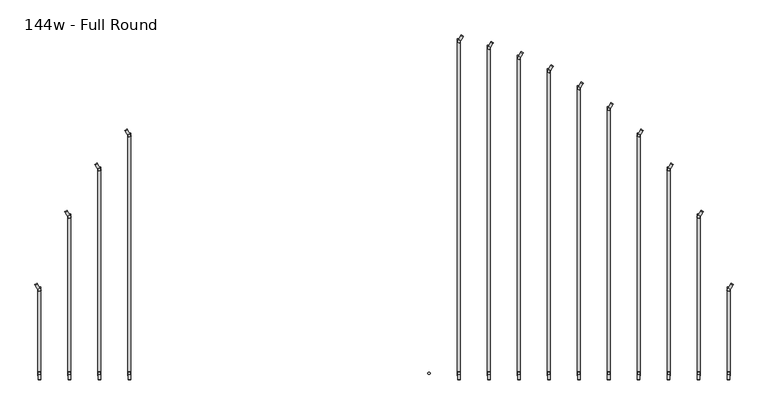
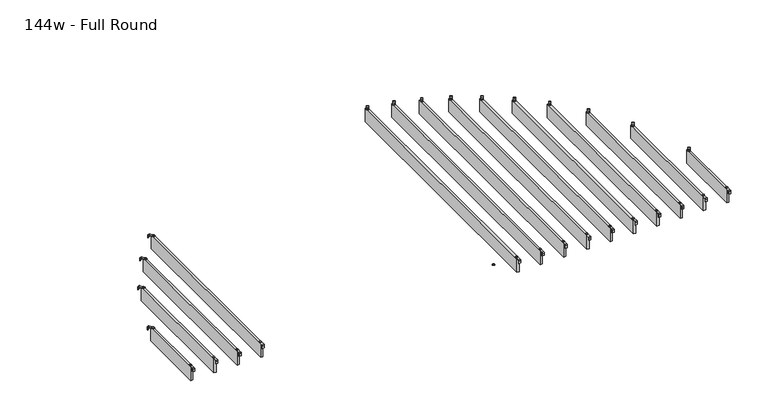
"""IFC4 building model written with IfcOpenShell, lengths in millimetres: furniture geometry, Haworth_Pergola_Ceiling_Slat_Radial : 144w - Full Round."""

from ifc_helpers import new_model, si_unit, point, frame, frame_2d, origin, place, context, project, spatial, polyline, circle_curve, trimmed, segment, composite_curve, outline, extrude, source, transform, mapped, element, save


def furniture_144w_full_round_0b8315b5(model_context):
    return source(origin(), model_context, "Body", "SweptSolid", [
        extrude(outline(composite_curve([segment(trimmed(circle_curve(frame_2d((-1.0160034, 0.0159996)), 1.016), [point((-1.0160034, -1.0000004))], [point((-3.4e-06, 0.0159996))], True, "CARTESIAN"), True, "CONTINUOUS"), segment(polyline([(-3.4e-06, 0.0159996), (-3.4e-06, 36.7785168), (2.5329992, 36.7785168), (2.5329992, 0.022999)]), True, "CONTINUOUS"), segment(trimmed(circle_curve(frame_2d((-1.1500008, 0.022999)), 3.683), [point((2.5329992, 0.022999))], [point((-1.1500008, -3.660001))], False, "CARTESIAN"), True, "CONTINUOUS"), segment(polyline([(-1.1500008, -3.660001), (-19.0498319, -3.660001), (-19.0498319, -1.0000004), (-1.0160034, -1.0000004)]), True, "CONTINUOUS")], self_intersect=False)), frame((-1735.3791648, -1770.5936262, 2438.4), z_axis=(0.8660254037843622, 0.5000000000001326, 0.0), x_axis=(0.0, 0.0, 1.0)), (0.0, 0.0, 1.0), 13.0000002),
        extrude(outline(composite_curve([segment(trimmed(circle_curve(frame_2d((-1714.5, -2218.9346)), 5.9838099), [point((-1714.5, -2212.9507901))], [point((-1714.5, -2224.9184099))], False, "CARTESIAN"), True, "CONTINUOUS"), segment(trimmed(circle_curve(frame_2d((-1714.5, -2218.9346)), 5.9838099), [point((-1714.5, -2224.9184099))], [point((-1714.5, -2212.9507901))], False, "CARTESIAN"), True, "CONTINUOUS")], self_intersect=False)), frame((0.0, 0.0, 2440.9329992), z_axis=(0.0, 0.0, 1.0), x_axis=(1.0, 0.0, 0.0)), (0.0, 0.0, 1.0), 3.4400008),
        extrude(outline(composite_curve([segment(trimmed(circle_curve(frame_2d((-1714.5, -1793.7574)), 5.9838099), [point((-1714.5, -1799.7412099))], [point((-1714.5, -1787.7735901))], False, "CARTESIAN"), True, "CONTINUOUS"), segment(trimmed(circle_curve(frame_2d((-1714.5, -1793.7574)), 5.9838099), [point((-1714.5, -1787.7735901))], [point((-1714.5, -1799.7412099))], False, "CARTESIAN"), True, "CONTINUOUS")], self_intersect=False)), frame((0.0, 0.0, 2440.9329992), z_axis=(0.0, 0.0, 1.0), x_axis=(1.0, 0.0, 0.0)), (0.0, 0.0, 1.0), 3.4400008),
        extrude(outline(composite_curve([segment(polyline([(-2253.0946, 2419.2231711), (-2253.0946, 2437.2499992)]), True, "CONTINUOUS"), segment(trimmed(circle_curve(frame_2d((-2249.4116, 2437.2499992)), 3.683), [point((-2253.0946, 2437.2499992))], [point((-2249.4116, 2440.9329992))], False, "CARTESIAN"), True, "CONTINUOUS"), segment(polyline([(-2249.4116, 2440.9329992), (-2212.4346, 2440.9329992), (-2212.4346, 2438.2729997), (-2249.4251568, 2438.2729997)]), True, "CONTINUOUS"), segment(trimmed(circle_curve(frame_2d((-2249.4251568, 2437.2635571)), 1.0094425), [point((-2249.4251568, 2438.2729997))], [point((-2250.4345993, 2437.2635571))], True, "CARTESIAN"), True, "CONTINUOUS"), segment(polyline([(-2250.4345993, 2437.2635571), (-2250.4345993, 2419.2231711), (-2253.0946, 2419.2231711)]), True, "CONTINUOUS")], self_intersect=False)), frame((-1720.9930003, 0.0, 0.0), z_axis=(1.0, 0.0, 0.0), x_axis=(0.0, 1.0, 0.0)), (0.0, 0.0, 1.0), 13.0),
        extrude(outline(polyline([(-1721.993, -1780.0574), (-1707.007, -1780.0574), (-1707.007, -2232.6346), (-1721.993, -2232.6346), (-1721.993, -1780.0574)])), frame((0.0, 0.0, 2346.198), z_axis=(0.0, 0.0, 1.0), x_axis=(1.0, 0.0, 0.0)), (0.0, 0.0, 1.0), 92.202),
        extrude(outline(composite_curve([segment(trimmed(circle_curve(frame_2d((-1.0160034, 0.0159996)), 1.016), [point((-1.0160034, -1.0000004))], [point((-3.4e-06, 0.0159996))], True, "CARTESIAN"), True, "CONTINUOUS"), segment(polyline([(-3.4e-06, 0.0159996), (-3.4e-06, 36.7785168), (2.5329992, 36.7785168), (2.5329992, 0.022999)]), True, "CONTINUOUS"), segment(trimmed(circle_curve(frame_2d((-1.1500008, 0.022999)), 3.683), [point((2.5329992, 0.022999))], [point((-1.1500008, -3.660001))], False, "CARTESIAN"), True, "CONTINUOUS"), segment(polyline([(-1.1500008, -3.660001), (-19.0498319, -3.660001), (-19.0498319, -1.0000004), (-1.0160034, -1.0000004)]), True, "CONTINUOUS")], self_intersect=False)), frame((-1582.9791648, -1399.1186262, 2438.4), z_axis=(0.8660254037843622, 0.5000000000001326, 0.0), x_axis=(0.0, 0.0, 1.0)), (0.0, 0.0, 1.0), 13.0000002),
        extrude(outline(composite_curve([segment(trimmed(circle_curve(frame_2d((-1562.1, -2218.9346)), 5.9838099), [point((-1562.1, -2212.9507901))], [point((-1562.1, -2224.9184099))], False, "CARTESIAN"), True, "CONTINUOUS"), segment(trimmed(circle_curve(frame_2d((-1562.1, -2218.9346)), 5.9838099), [point((-1562.1, -2224.9184099))], [point((-1562.1, -2212.9507901))], False, "CARTESIAN"), True, "CONTINUOUS")], self_intersect=False)), frame((0.0, 0.0, 2440.9329992), z_axis=(0.0, 0.0, 1.0), x_axis=(1.0, 0.0, 0.0)), (0.0, 0.0, 1.0), 3.4400008),
        extrude(outline(composite_curve([segment(trimmed(circle_curve(frame_2d((-1562.1, -1422.2824)), 5.9838099), [point((-1562.1, -1428.2662099))], [point((-1562.1, -1416.2985901))], False, "CARTESIAN"), True, "CONTINUOUS"), segment(trimmed(circle_curve(frame_2d((-1562.1, -1422.2824)), 5.9838099), [point((-1562.1, -1416.2985901))], [point((-1562.1, -1428.2662099))], False, "CARTESIAN"), True, "CONTINUOUS")], self_intersect=False)), frame((0.0, 0.0, 2440.9329992), z_axis=(0.0, 0.0, 1.0), x_axis=(1.0, 0.0, 0.0)), (0.0, 0.0, 1.0), 3.4400008),
        extrude(outline(composite_curve([segment(polyline([(-2253.0946, 2419.2231711), (-2253.0946, 2437.2499992)]), True, "CONTINUOUS"), segment(trimmed(circle_curve(frame_2d((-2249.4116, 2437.2499992)), 3.683), [point((-2253.0946, 2437.2499992))], [point((-2249.4116, 2440.9329992))], False, "CARTESIAN"), True, "CONTINUOUS"), segment(polyline([(-2249.4116, 2440.9329992), (-2212.4346, 2440.9329992), (-2212.4346, 2438.2729997), (-2249.4251568, 2438.2729997)]), True, "CONTINUOUS"), segment(trimmed(circle_curve(frame_2d((-2249.4251568, 2437.2635571)), 1.0094425), [point((-2249.4251568, 2438.2729997))], [point((-2250.4345993, 2437.2635571))], True, "CARTESIAN"), True, "CONTINUOUS"), segment(polyline([(-2250.4345993, 2437.2635571), (-2250.4345993, 2419.2231711), (-2253.0946, 2419.2231711)]), True, "CONTINUOUS")], self_intersect=False)), frame((-1568.5930003, 0.0, 0.0), z_axis=(1.0, 0.0, 0.0), x_axis=(0.0, 1.0, 0.0)), (0.0, 0.0, 1.0), 13.0),
        extrude(outline(polyline([(-1569.593, -1408.5824), (-1554.607, -1408.5824), (-1554.607, -2232.6346), (-1569.593, -2232.6346), (-1569.593, -1408.5824)])), frame((0.0, 0.0, 2346.198), z_axis=(0.0, 0.0, 1.0), x_axis=(1.0, 0.0, 0.0)), (0.0, 0.0, 1.0), 92.202),
        extrude(outline(composite_curve([segment(trimmed(circle_curve(frame_2d((-1.0160034, 0.0159996)), 1.016), [point((-1.0160034, -1.0000004))], [point((-3.4e-06, 0.0159996))], True, "CARTESIAN"), True, "CONTINUOUS"), segment(polyline([(-3.4e-06, 0.0159996), (-3.4e-06, 36.7785168), (2.5329992, 36.7785168), (2.5329992, 0.022999)]), True, "CONTINUOUS"), segment(trimmed(circle_curve(frame_2d((-1.1500008, 0.022999)), 3.683), [point((2.5329992, 0.022999))], [point((-1.1500008, -3.660001))], False, "CARTESIAN"), True, "CONTINUOUS"), segment(polyline([(-1.1500008, -3.660001), (-19.0498319, -3.660001), (-19.0498319, -1.0000004), (-1.0160034, -1.0000004)]), True, "CONTINUOUS")], self_intersect=False)), frame((-1430.5791648, -1158.6314262, 2438.4), z_axis=(0.8660254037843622, 0.5000000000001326, 0.0), x_axis=(0.0, 0.0, 1.0)), (0.0, 0.0, 1.0), 13.0000002),
        extrude(outline(composite_curve([segment(trimmed(circle_curve(frame_2d((-1409.7, -2218.9346)), 5.9838099), [point((-1409.7, -2212.9507901))], [point((-1409.7, -2224.9184099))], False, "CARTESIAN"), True, "CONTINUOUS"), segment(trimmed(circle_curve(frame_2d((-1409.7, -2218.9346)), 5.9838099), [point((-1409.7, -2224.9184099))], [point((-1409.7, -2212.9507901))], False, "CARTESIAN"), True, "CONTINUOUS")], self_intersect=False)), frame((0.0, 0.0, 2440.9329992), z_axis=(0.0, 0.0, 1.0), x_axis=(1.0, 0.0, 0.0)), (0.0, 0.0, 1.0), 3.4400008),
        extrude(outline(composite_curve([segment(trimmed(circle_curve(frame_2d((-1409.7, -1181.7952)), 5.9838099), [point((-1409.7, -1187.7790099))], [point((-1409.7, -1175.8113901))], False, "CARTESIAN"), True, "CONTINUOUS"), segment(trimmed(circle_curve(frame_2d((-1409.7, -1181.7952)), 5.9838099), [point((-1409.7, -1175.8113901))], [point((-1409.7, -1187.7790099))], False, "CARTESIAN"), True, "CONTINUOUS")], self_intersect=False)), frame((0.0, 0.0, 2440.9329992), z_axis=(0.0, 0.0, 1.0), x_axis=(1.0, 0.0, 0.0)), (0.0, 0.0, 1.0), 3.4400008),
        extrude(outline(composite_curve([segment(polyline([(-2253.0946, 2419.2231711), (-2253.0946, 2437.2499992)]), True, "CONTINUOUS"), segment(trimmed(circle_curve(frame_2d((-2249.4116, 2437.2499992)), 3.683), [point((-2253.0946, 2437.2499992))], [point((-2249.4116, 2440.9329992))], False, "CARTESIAN"), True, "CONTINUOUS"), segment(polyline([(-2249.4116, 2440.9329992), (-2212.4346, 2440.9329992), (-2212.4346, 2438.2729997), (-2249.4251568, 2438.2729997)]), True, "CONTINUOUS"), segment(trimmed(circle_curve(frame_2d((-2249.4251568, 2437.2635571)), 1.0094425), [point((-2249.4251568, 2438.2729997))], [point((-2250.4345993, 2437.2635571))], True, "CARTESIAN"), True, "CONTINUOUS"), segment(polyline([(-2250.4345993, 2437.2635571), (-2250.4345993, 2419.2231711), (-2253.0946, 2419.2231711)]), True, "CONTINUOUS")], self_intersect=False)), frame((-1416.1930003, 0.0, 0.0), z_axis=(1.0, 0.0, 0.0), x_axis=(0.0, 1.0, 0.0)), (0.0, 0.0, 1.0), 13.0),
        extrude(outline(polyline([(-1417.193, -1168.0952), (-1402.207, -1168.0952), (-1402.207, -2232.6346), (-1417.193, -2232.6346), (-1417.193, -1168.0952)])), frame((0.0, 0.0, 2346.198), z_axis=(0.0, 0.0, 1.0), x_axis=(1.0, 0.0, 0.0)), (0.0, 0.0, 1.0), 92.202),
        extrude(outline(composite_curve([segment(trimmed(circle_curve(frame_2d((-1.0160034, 0.0159996)), 1.016), [point((-1.0160034, -1.0000004))], [point((-3.4e-06, 0.0159996))], True, "CARTESIAN"), True, "CONTINUOUS"), segment(polyline([(-3.4e-06, 0.0159996), (-3.4e-06, 36.7785168), (2.5329992, 36.7785168), (2.5329992, 0.022999)]), True, "CONTINUOUS"), segment(trimmed(circle_curve(frame_2d((-1.1500008, 0.022999)), 3.683), [point((2.5329992, 0.022999))], [point((-1.1500008, -3.660001))], False, "CARTESIAN"), True, "CONTINUOUS"), segment(polyline([(-1.1500008, -3.660001), (-19.0498319, -3.660001), (-19.0498319, -1.0000004), (-1.0160034, -1.0000004)]), True, "CONTINUOUS")], self_intersect=False)), frame((-1278.1791648, -985.3272262, 2438.4), z_axis=(0.8660254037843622, 0.5000000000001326, 0.0), x_axis=(0.0, 0.0, 1.0)), (0.0, 0.0, 1.0), 13.0000002),
        extrude(outline(composite_curve([segment(trimmed(circle_curve(frame_2d((-1257.3, -2218.9346)), 5.9838099), [point((-1257.3, -2212.9507901))], [point((-1257.3, -2224.9184099))], False, "CARTESIAN"), True, "CONTINUOUS"), segment(trimmed(circle_curve(frame_2d((-1257.3, -2218.9346)), 5.9838099), [point((-1257.3, -2224.9184099))], [point((-1257.3, -2212.9507901))], False, "CARTESIAN"), True, "CONTINUOUS")], self_intersect=False)), frame((0.0, 0.0, 2440.9329992), z_axis=(0.0, 0.0, 1.0), x_axis=(1.0, 0.0, 0.0)), (0.0, 0.0, 1.0), 3.4400008),
        extrude(outline(composite_curve([segment(trimmed(circle_curve(frame_2d((-1257.3, -1008.491)), 5.9838099), [point((-1257.3, -1014.4748099))], [point((-1257.3, -1002.5071901))], False, "CARTESIAN"), True, "CONTINUOUS"), segment(trimmed(circle_curve(frame_2d((-1257.3, -1008.491)), 5.9838099), [point((-1257.3, -1002.5071901))], [point((-1257.3, -1014.4748099))], False, "CARTESIAN"), True, "CONTINUOUS")], self_intersect=False)), frame((0.0, 0.0, 2440.9329992), z_axis=(0.0, 0.0, 1.0), x_axis=(1.0, 0.0, 0.0)), (0.0, 0.0, 1.0), 3.4400008),
        extrude(outline(composite_curve([segment(polyline([(-2253.0946, 2419.2231711), (-2253.0946, 2437.2499992)]), True, "CONTINUOUS"), segment(trimmed(circle_curve(frame_2d((-2249.4116, 2437.2499992)), 3.683), [point((-2253.0946, 2437.2499992))], [point((-2249.4116, 2440.9329992))], False, "CARTESIAN"), True, "CONTINUOUS"), segment(polyline([(-2249.4116, 2440.9329992), (-2212.4346, 2440.9329992), (-2212.4346, 2438.2729997), (-2249.4251568, 2438.2729997)]), True, "CONTINUOUS"), segment(trimmed(circle_curve(frame_2d((-2249.4251568, 2437.2635571)), 1.0094425), [point((-2249.4251568, 2438.2729997))], [point((-2250.4345993, 2437.2635571))], True, "CARTESIAN"), True, "CONTINUOUS"), segment(polyline([(-2250.4345993, 2437.2635571), (-2250.4345993, 2419.2231711), (-2253.0946, 2419.2231711)]), True, "CONTINUOUS")], self_intersect=False)), frame((-1263.7930003, 0.0, 0.0), z_axis=(1.0, 0.0, 0.0), x_axis=(0.0, 1.0, 0.0)), (0.0, 0.0, 1.0), 13.0),
        extrude(outline(polyline([(-1264.793, -994.791), (-1249.807, -994.791), (-1249.807, -2232.6346), (-1264.793, -2232.6346), (-1264.793, -994.791)])), frame((0.0, 0.0, 2346.198), z_axis=(0.0, 0.0, 1.0), x_axis=(1.0, 0.0, 0.0)), (0.0, 0.0, 1.0), 92.202),
        extrude(outline(composite_curve([segment(polyline([(-1.0160034, 1.0000004), (-19.0498319, 1.0000004), (-19.0498319, 3.660001), (-1.1500008, 3.660001)]), True, "CONTINUOUS"), segment(trimmed(circle_curve(frame_2d((-1.1500008, -0.022999)), 3.683), [point((-1.1500008, 3.660001))], [point((2.5329992, -0.022999))], False, "CARTESIAN"), True, "CONTINUOUS"), segment(polyline([(2.5329992, -0.022999), (2.5329992, -36.7785168), (-3.4e-06, -36.7785168), (-3.4e-06, -0.0159996)]), True, "CONTINUOUS"), segment(trimmed(circle_curve(frame_2d((-1.0160034, -0.0159996)), 1.016), [point((-3.4e-06, -0.0159996))], [point((-1.0160034, 1.0000004))], True, "CARTESIAN"), True, "CONTINUOUS")], self_intersect=False)), frame((1811.5791648, -1770.5936262, 2438.4), z_axis=(-0.8660254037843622, 0.5000000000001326, 0.0), x_axis=(0.0, 0.0, 1.0)), (0.0, 0.0, 1.0), 13.0000002),
        extrude(outline(composite_curve([segment(trimmed(circle_curve(frame_2d((1790.7, -2218.9346)), 5.9838099), [point((1790.7, -2212.9507901))], [point((1790.7, -2224.9184099))], False, "CARTESIAN"), True, "CONTINUOUS"), segment(trimmed(circle_curve(frame_2d((1790.7, -2218.9346)), 5.9838099), [point((1790.7, -2224.9184099))], [point((1790.7, -2212.9507901))], False, "CARTESIAN"), True, "CONTINUOUS")], self_intersect=False)), frame((0.0, 0.0, 2440.9329992), z_axis=(0.0, 0.0, 1.0), x_axis=(1.0, 0.0, 0.0)), (0.0, 0.0, 1.0), 3.4400008),
        extrude(outline(composite_curve([segment(trimmed(circle_curve(frame_2d((1790.7, -1793.7574)), 5.9838099), [point((1790.7, -1799.7412099))], [point((1790.7, -1787.7735901))], False, "CARTESIAN"), True, "CONTINUOUS"), segment(trimmed(circle_curve(frame_2d((1790.7, -1793.7574)), 5.9838099), [point((1790.7, -1787.7735901))], [point((1790.7, -1799.7412099))], False, "CARTESIAN"), True, "CONTINUOUS")], self_intersect=False)), frame((0.0, 0.0, 2440.9329992), z_axis=(0.0, 0.0, 1.0), x_axis=(1.0, 0.0, 0.0)), (0.0, 0.0, 1.0), 3.4400008),
        extrude(outline(composite_curve([segment(polyline([(-2253.0946, 2419.2231711), (-2253.0946, 2437.2499992)]), True, "CONTINUOUS"), segment(trimmed(circle_curve(frame_2d((-2249.4116, 2437.2499992)), 3.683), [point((-2253.0946, 2437.2499992))], [point((-2249.4116, 2440.9329992))], False, "CARTESIAN"), True, "CONTINUOUS"), segment(polyline([(-2249.4116, 2440.9329992), (-2212.4346, 2440.9329992), (-2212.4346, 2438.2729997), (-2249.4251568, 2438.2729997)]), True, "CONTINUOUS"), segment(trimmed(circle_curve(frame_2d((-2249.4251568, 2437.2635571)), 1.0094425), [point((-2249.4251568, 2438.2729997))], [point((-2250.4345993, 2437.2635571))], True, "CARTESIAN"), True, "CONTINUOUS"), segment(polyline([(-2250.4345993, 2437.2635571), (-2250.4345993, 2419.2231711), (-2253.0946, 2419.2231711)]), True, "CONTINUOUS")], self_intersect=False)), frame((1784.1930003, 0.0, 0.0), z_axis=(1.0, 0.0, 0.0), x_axis=(0.0, 1.0, 0.0)), (0.0, 0.0, 1.0), 13.0),
        extrude(outline(polyline([(1798.193, -1780.0574), (1798.193, -2232.6346), (1783.207, -2232.6346), (1783.207, -1780.0574), (1798.193, -1780.0574)])), frame((0.0, 0.0, 2346.198), z_axis=(0.0, 0.0, 1.0), x_axis=(1.0, 0.0, 0.0)), (0.0, 0.0, 1.0), 92.202),
        extrude(outline(composite_curve([segment(polyline([(-1.0160034, 1.0000004), (-19.0498319, 1.0000004), (-19.0498319, 3.660001), (-1.1500008, 3.660001)]), True, "CONTINUOUS"), segment(trimmed(circle_curve(frame_2d((-1.1500008, -0.022999)), 3.683), [point((-1.1500008, 3.660001))], [point((2.5329992, -0.022999))], False, "CARTESIAN"), True, "CONTINUOUS"), segment(polyline([(2.5329992, -0.022999), (2.5329992, -36.7785168), (-3.4e-06, -36.7785168), (-3.4e-06, -0.0159996)]), True, "CONTINUOUS"), segment(trimmed(circle_curve(frame_2d((-1.0160034, -0.0159996)), 1.016), [point((-3.4e-06, -0.0159996))], [point((-1.0160034, 1.0000004))], True, "CARTESIAN"), True, "CONTINUOUS")], self_intersect=False)), frame((1659.1791648, -1399.1186262, 2438.4), z_axis=(-0.8660254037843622, 0.5000000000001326, 0.0), x_axis=(0.0, 0.0, 1.0)), (0.0, 0.0, 1.0), 13.0000002),
        extrude(outline(composite_curve([segment(trimmed(circle_curve(frame_2d((1638.3, -2218.9346)), 5.9838099), [point((1638.3, -2212.9507901))], [point((1638.3, -2224.9184099))], False, "CARTESIAN"), True, "CONTINUOUS"), segment(trimmed(circle_curve(frame_2d((1638.3, -2218.9346)), 5.9838099), [point((1638.3, -2224.9184099))], [point((1638.3, -2212.9507901))], False, "CARTESIAN"), True, "CONTINUOUS")], self_intersect=False)), frame((0.0, 0.0, 2440.9329992), z_axis=(0.0, 0.0, 1.0), x_axis=(1.0, 0.0, 0.0)), (0.0, 0.0, 1.0), 3.4400008),
        extrude(outline(composite_curve([segment(trimmed(circle_curve(frame_2d((1638.3, -1422.2824)), 5.9838099), [point((1638.3, -1428.2662099))], [point((1638.3, -1416.2985901))], False, "CARTESIAN"), True, "CONTINUOUS"), segment(trimmed(circle_curve(frame_2d((1638.3, -1422.2824)), 5.9838099), [point((1638.3, -1416.2985901))], [point((1638.3, -1428.2662099))], False, "CARTESIAN"), True, "CONTINUOUS")], self_intersect=False)), frame((0.0, 0.0, 2440.9329992), z_axis=(0.0, 0.0, 1.0), x_axis=(1.0, 0.0, 0.0)), (0.0, 0.0, 1.0), 3.4400008),
        extrude(outline(composite_curve([segment(polyline([(-2253.0946, 2419.2231711), (-2253.0946, 2437.2499992)]), True, "CONTINUOUS"), segment(trimmed(circle_curve(frame_2d((-2249.4116, 2437.2499992)), 3.683), [point((-2253.0946, 2437.2499992))], [point((-2249.4116, 2440.9329992))], False, "CARTESIAN"), True, "CONTINUOUS"), segment(polyline([(-2249.4116, 2440.9329992), (-2212.4346, 2440.9329992), (-2212.4346, 2438.2729997), (-2249.4251568, 2438.2729997)]), True, "CONTINUOUS"), segment(trimmed(circle_curve(frame_2d((-2249.4251568, 2437.2635571)), 1.0094425), [point((-2249.4251568, 2438.2729997))], [point((-2250.4345993, 2437.2635571))], True, "CARTESIAN"), True, "CONTINUOUS"), segment(polyline([(-2250.4345993, 2437.2635571), (-2250.4345993, 2419.2231711), (-2253.0946, 2419.2231711)]), True, "CONTINUOUS")], self_intersect=False)), frame((1631.7930003, 0.0, 0.0), z_axis=(1.0, 0.0, 0.0), x_axis=(0.0, 1.0, 0.0)), (0.0, 0.0, 1.0), 13.0),
        extrude(outline(polyline([(1645.793, -1408.5824), (1645.793, -2232.6346), (1630.807, -2232.6346), (1630.807, -1408.5824), (1645.793, -1408.5824)])), frame((0.0, 0.0, 2346.198), z_axis=(0.0, 0.0, 1.0), x_axis=(1.0, 0.0, 0.0)), (0.0, 0.0, 1.0), 92.202),
        extrude(outline(composite_curve([segment(polyline([(-1.0160034, 1.0000004), (-19.0498319, 1.0000004), (-19.0498319, 3.660001), (-1.1500008, 3.660001)]), True, "CONTINUOUS"), segment(trimmed(circle_curve(frame_2d((-1.1500008, -0.022999)), 3.683), [point((-1.1500008, 3.660001))], [point((2.5329992, -0.022999))], False, "CARTESIAN"), True, "CONTINUOUS"), segment(polyline([(2.5329992, -0.022999), (2.5329992, -36.7785168), (-3.4e-06, -36.7785168), (-3.4e-06, -0.0159996)]), True, "CONTINUOUS"), segment(trimmed(circle_curve(frame_2d((-1.0160034, -0.0159996)), 1.016), [point((-3.4e-06, -0.0159996))], [point((-1.0160034, 1.0000004))], True, "CARTESIAN"), True, "CONTINUOUS")], self_intersect=False)), frame((1506.7791648, -1158.6314262, 2438.4), z_axis=(-0.8660254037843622, 0.5000000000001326, 0.0), x_axis=(0.0, 0.0, 1.0)), (0.0, 0.0, 1.0), 13.0000002),
        extrude(outline(composite_curve([segment(trimmed(circle_curve(frame_2d((1485.9, -2218.9346)), 5.9838099), [point((1485.9, -2212.9507901))], [point((1485.9, -2224.9184099))], False, "CARTESIAN"), True, "CONTINUOUS"), segment(trimmed(circle_curve(frame_2d((1485.9, -2218.9346)), 5.9838099), [point((1485.9, -2224.9184099))], [point((1485.9, -2212.9507901))], False, "CARTESIAN"), True, "CONTINUOUS")], self_intersect=False)), frame((0.0, 0.0, 2440.9329992), z_axis=(0.0, 0.0, 1.0), x_axis=(1.0, 0.0, 0.0)), (0.0, 0.0, 1.0), 3.4400008),
        extrude(outline(composite_curve([segment(trimmed(circle_curve(frame_2d((1485.9, -1181.7952)), 5.9838099), [point((1485.9, -1187.7790099))], [point((1485.9, -1175.8113901))], False, "CARTESIAN"), True, "CONTINUOUS"), segment(trimmed(circle_curve(frame_2d((1485.9, -1181.7952)), 5.9838099), [point((1485.9, -1175.8113901))], [point((1485.9, -1187.7790099))], False, "CARTESIAN"), True, "CONTINUOUS")], self_intersect=False)), frame((0.0, 0.0, 2440.9329992), z_axis=(0.0, 0.0, 1.0), x_axis=(1.0, 0.0, 0.0)), (0.0, 0.0, 1.0), 3.4400008),
        extrude(outline(composite_curve([segment(polyline([(-2253.0946, 2419.2231711), (-2253.0946, 2437.2499992)]), True, "CONTINUOUS"), segment(trimmed(circle_curve(frame_2d((-2249.4116, 2437.2499992)), 3.683), [point((-2253.0946, 2437.2499992))], [point((-2249.4116, 2440.9329992))], False, "CARTESIAN"), True, "CONTINUOUS"), segment(polyline([(-2249.4116, 2440.9329992), (-2212.4346, 2440.9329992), (-2212.4346, 2438.2729997), (-2249.4251568, 2438.2729997)]), True, "CONTINUOUS"), segment(trimmed(circle_curve(frame_2d((-2249.4251568, 2437.2635571)), 1.0094425), [point((-2249.4251568, 2438.2729997))], [point((-2250.4345993, 2437.2635571))], True, "CARTESIAN"), True, "CONTINUOUS"), segment(polyline([(-2250.4345993, 2437.2635571), (-2250.4345993, 2419.2231711), (-2253.0946, 2419.2231711)]), True, "CONTINUOUS")], self_intersect=False)), frame((1479.3930003, 0.0, 0.0), z_axis=(1.0, 0.0, 0.0), x_axis=(0.0, 1.0, 0.0)), (0.0, 0.0, 1.0), 13.0),
        extrude(outline(polyline([(1493.393, -1168.0952), (1493.393, -2232.6346), (1478.407, -2232.6346), (1478.407, -1168.0952), (1493.393, -1168.0952)])), frame((0.0, 0.0, 2346.198), z_axis=(0.0, 0.0, 1.0), x_axis=(1.0, 0.0, 0.0)), (0.0, 0.0, 1.0), 92.202),
        extrude(outline(composite_curve([segment(polyline([(-1.0160034, 1.0000004), (-19.0498319, 1.0000004), (-19.0498319, 3.660001), (-1.1500008, 3.660001)]), True, "CONTINUOUS"), segment(trimmed(circle_curve(frame_2d((-1.1500008, -0.022999)), 3.683), [point((-1.1500008, 3.660001))], [point((2.5329992, -0.022999))], False, "CARTESIAN"), True, "CONTINUOUS"), segment(polyline([(2.5329992, -0.022999), (2.5329992, -36.7785168), (-3.4e-06, -36.7785168), (-3.4e-06, -0.0159996)]), True, "CONTINUOUS"), segment(trimmed(circle_curve(frame_2d((-1.0160034, -0.0159996)), 1.016), [point((-3.4e-06, -0.0159996))], [point((-1.0160034, 1.0000004))], True, "CARTESIAN"), True, "CONTINUOUS")], self_intersect=False)), frame((1354.3791648, -985.3272262, 2438.4), z_axis=(-0.8660254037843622, 0.5000000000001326, 0.0), x_axis=(0.0, 0.0, 1.0)), (0.0, 0.0, 1.0), 13.0000002),
        extrude(outline(composite_curve([segment(trimmed(circle_curve(frame_2d((1333.5, -2218.9346)), 5.9838099), [point((1333.5, -2212.9507901))], [point((1333.5, -2224.9184099))], False, "CARTESIAN"), True, "CONTINUOUS"), segment(trimmed(circle_curve(frame_2d((1333.5, -2218.9346)), 5.9838099), [point((1333.5, -2224.9184099))], [point((1333.5, -2212.9507901))], False, "CARTESIAN"), True, "CONTINUOUS")], self_intersect=False)), frame((0.0, 0.0, 2440.9329992), z_axis=(0.0, 0.0, 1.0), x_axis=(1.0, 0.0, 0.0)), (0.0, 0.0, 1.0), 3.4400008),
        extrude(outline(composite_curve([segment(trimmed(circle_curve(frame_2d((1333.5, -1008.491)), 5.9838099), [point((1333.5, -1014.4748099))], [point((1333.5, -1002.5071901))], False, "CARTESIAN"), True, "CONTINUOUS"), segment(trimmed(circle_curve(frame_2d((1333.5, -1008.491)), 5.9838099), [point((1333.5, -1002.5071901))], [point((1333.5, -1014.4748099))], False, "CARTESIAN"), True, "CONTINUOUS")], self_intersect=False)), frame((0.0, 0.0, 2440.9329992), z_axis=(0.0, 0.0, 1.0), x_axis=(1.0, 0.0, 0.0)), (0.0, 0.0, 1.0), 3.4400008),
        extrude(outline(composite_curve([segment(polyline([(-2253.0946, 2419.2231711), (-2253.0946, 2437.2499992)]), True, "CONTINUOUS"), segment(trimmed(circle_curve(frame_2d((-2249.4116, 2437.2499992)), 3.683), [point((-2253.0946, 2437.2499992))], [point((-2249.4116, 2440.9329992))], False, "CARTESIAN"), True, "CONTINUOUS"), segment(polyline([(-2249.4116, 2440.9329992), (-2212.4346, 2440.9329992), (-2212.4346, 2438.2729997), (-2249.4251568, 2438.2729997)]), True, "CONTINUOUS"), segment(trimmed(circle_curve(frame_2d((-2249.4251568, 2437.2635571)), 1.0094425), [point((-2249.4251568, 2438.2729997))], [point((-2250.4345993, 2437.2635571))], True, "CARTESIAN"), True, "CONTINUOUS"), segment(polyline([(-2250.4345993, 2437.2635571), (-2250.4345993, 2419.2231711), (-2253.0946, 2419.2231711)]), True, "CONTINUOUS")], self_intersect=False)), frame((1326.9930003, 0.0, 0.0), z_axis=(1.0, 0.0, 0.0), x_axis=(0.0, 1.0, 0.0)), (0.0, 0.0, 1.0), 13.0),
        extrude(outline(polyline([(1340.993, -994.791), (1340.993, -2232.6346), (1326.007, -2232.6346), (1326.007, -994.791), (1340.993, -994.791)])), frame((0.0, 0.0, 2346.198), z_axis=(0.0, 0.0, 1.0), x_axis=(1.0, 0.0, 0.0)), (0.0, 0.0, 1.0), 92.202),
        extrude(outline(composite_curve([segment(polyline([(-1.0160034, 1.0000004), (-19.0498319, 1.0000004), (-19.0498319, 3.660001), (-1.1500008, 3.660001)]), True, "CONTINUOUS"), segment(trimmed(circle_curve(frame_2d((-1.1500008, -0.022999)), 3.683), [point((-1.1500008, 3.660001))], [point((2.5329992, -0.022999))], False, "CARTESIAN"), True, "CONTINUOUS"), segment(polyline([(2.5329992, -0.022999), (2.5329992, -36.7785168), (-3.4e-06, -36.7785168), (-3.4e-06, -0.0159996)]), True, "CONTINUOUS"), segment(trimmed(circle_curve(frame_2d((-1.0160034, -0.0159996)), 1.016), [point((-3.4e-06, -0.0159996))], [point((-1.0160034, 1.0000004))], True, "CARTESIAN"), True, "CONTINUOUS")], self_intersect=False)), frame((1201.9791648, -850.6564262, 2438.4), z_axis=(-0.8660254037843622, 0.5000000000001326, 0.0), x_axis=(0.0, 0.0, 1.0)), (0.0, 0.0, 1.0), 13.0000002),
        extrude(outline(composite_curve([segment(trimmed(circle_curve(frame_2d((1181.1, -2218.9346)), 5.9838099), [point((1181.1, -2212.9507901))], [point((1181.1, -2224.9184099))], False, "CARTESIAN"), True, "CONTINUOUS"), segment(trimmed(circle_curve(frame_2d((1181.1, -2218.9346)), 5.9838099), [point((1181.1, -2224.9184099))], [point((1181.1, -2212.9507901))], False, "CARTESIAN"), True, "CONTINUOUS")], self_intersect=False)), frame((0.0, 0.0, 2440.9329992), z_axis=(0.0, 0.0, 1.0), x_axis=(1.0, 0.0, 0.0)), (0.0, 0.0, 1.0), 3.4400008),
        extrude(outline(composite_curve([segment(trimmed(circle_curve(frame_2d((1181.1, -873.8202)), 5.9838099), [point((1181.1, -879.8040099))], [point((1181.1, -867.8363901))], False, "CARTESIAN"), True, "CONTINUOUS"), segment(trimmed(circle_curve(frame_2d((1181.1, -873.8202)), 5.9838099), [point((1181.1, -867.8363901))], [point((1181.1, -879.8040099))], False, "CARTESIAN"), True, "CONTINUOUS")], self_intersect=False)), frame((0.0, 0.0, 2440.9329992), z_axis=(0.0, 0.0, 1.0), x_axis=(1.0, 0.0, 0.0)), (0.0, 0.0, 1.0), 3.4400008),
        extrude(outline(composite_curve([segment(polyline([(-2253.0946, 2419.2231711), (-2253.0946, 2437.2499992)]), True, "CONTINUOUS"), segment(trimmed(circle_curve(frame_2d((-2249.4116, 2437.2499992)), 3.683), [point((-2253.0946, 2437.2499992))], [point((-2249.4116, 2440.9329992))], False, "CARTESIAN"), True, "CONTINUOUS"), segment(polyline([(-2249.4116, 2440.9329992), (-2212.4346, 2440.9329992), (-2212.4346, 2438.2729997), (-2249.4251568, 2438.2729997)]), True, "CONTINUOUS"), segment(trimmed(circle_curve(frame_2d((-2249.4251568, 2437.2635571)), 1.0094425), [point((-2249.4251568, 2438.2729997))], [point((-2250.4345993, 2437.2635571))], True, "CARTESIAN"), True, "CONTINUOUS"), segment(polyline([(-2250.4345993, 2437.2635571), (-2250.4345993, 2419.2231711), (-2253.0946, 2419.2231711)]), True, "CONTINUOUS")], self_intersect=False)), frame((1174.5930003, 0.0, 0.0), z_axis=(1.0, 0.0, 0.0), x_axis=(0.0, 1.0, 0.0)), (0.0, 0.0, 1.0), 13.0),
        extrude(outline(polyline([(1188.593, -860.1202), (1188.593, -2232.6346), (1173.607, -2232.6346), (1173.607, -860.1202), (1188.593, -860.1202)])), frame((0.0, 0.0, 2346.198), z_axis=(0.0, 0.0, 1.0), x_axis=(1.0, 0.0, 0.0)), (0.0, 0.0, 1.0), 92.202),
        extrude(outline(composite_curve([segment(polyline([(-1.0160034, 1.0000004), (-19.0498319, 1.0000004), (-19.0498319, 3.660001), (-1.1500008, 3.660001)]), True, "CONTINUOUS"), segment(trimmed(circle_curve(frame_2d((-1.1500008, -0.022999)), 3.683), [point((-1.1500008, 3.660001))], [point((2.5329992, -0.022999))], False, "CARTESIAN"), True, "CONTINUOUS"), segment(polyline([(2.5329992, -0.022999), (2.5329992, -36.7785168), (-3.4e-06, -36.7785168), (-3.4e-06, -0.0159996)]), True, "CONTINUOUS"), segment(trimmed(circle_curve(frame_2d((-1.0160034, -0.0159996)), 1.016), [point((-3.4e-06, -0.0159996))], [point((-1.0160034, 1.0000004))], True, "CARTESIAN"), True, "CONTINUOUS")], self_intersect=False)), frame((1049.5791648, -744.8400262, 2438.4), z_axis=(-0.8660254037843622, 0.5000000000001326, 0.0), x_axis=(0.0, 0.0, 1.0)), (0.0, 0.0, 1.0), 13.0000002),
        extrude(outline(composite_curve([segment(trimmed(circle_curve(frame_2d((1028.7, -2218.9346)), 5.9838099), [point((1028.7, -2212.9507901))], [point((1028.7, -2224.9184099))], False, "CARTESIAN"), True, "CONTINUOUS"), segment(trimmed(circle_curve(frame_2d((1028.7, -2218.9346)), 5.9838099), [point((1028.7, -2224.9184099))], [point((1028.7, -2212.9507901))], False, "CARTESIAN"), True, "CONTINUOUS")], self_intersect=False)), frame((0.0, 0.0, 2440.9329992), z_axis=(0.0, 0.0, 1.0), x_axis=(1.0, 0.0, 0.0)), (0.0, 0.0, 1.0), 3.4400008),
        extrude(outline(composite_curve([segment(trimmed(circle_curve(frame_2d((1028.7, -768.0038)), 5.9838099), [point((1028.7, -773.9876099))], [point((1028.7, -762.0199901))], False, "CARTESIAN"), True, "CONTINUOUS"), segment(trimmed(circle_curve(frame_2d((1028.7, -768.0038)), 5.9838099), [point((1028.7, -762.0199901))], [point((1028.7, -773.9876099))], False, "CARTESIAN"), True, "CONTINUOUS")], self_intersect=False)), frame((0.0, 0.0, 2440.9329992), z_axis=(0.0, 0.0, 1.0), x_axis=(1.0, 0.0, 0.0)), (0.0, 0.0, 1.0), 3.4400008),
        extrude(outline(composite_curve([segment(polyline([(-2253.0946, 2419.2231711), (-2253.0946, 2437.2499992)]), True, "CONTINUOUS"), segment(trimmed(circle_curve(frame_2d((-2249.4116, 2437.2499992)), 3.683), [point((-2253.0946, 2437.2499992))], [point((-2249.4116, 2440.9329992))], False, "CARTESIAN"), True, "CONTINUOUS"), segment(polyline([(-2249.4116, 2440.9329992), (-2212.4346, 2440.9329992), (-2212.4346, 2438.2729997), (-2249.4251568, 2438.2729997)]), True, "CONTINUOUS"), segment(trimmed(circle_curve(frame_2d((-2249.4251568, 2437.2635571)), 1.0094425), [point((-2249.4251568, 2438.2729997))], [point((-2250.4345993, 2437.2635571))], True, "CARTESIAN"), True, "CONTINUOUS"), segment(polyline([(-2250.4345993, 2437.2635571), (-2250.4345993, 2419.2231711), (-2253.0946, 2419.2231711)]), True, "CONTINUOUS")], self_intersect=False)), frame((1022.1930003, 0.0, 0.0), z_axis=(1.0, 0.0, 0.0), x_axis=(0.0, 1.0, 0.0)), (0.0, 0.0, 1.0), 13.0),
        extrude(outline(polyline([(1036.193, -754.3038), (1036.193, -2232.6346), (1021.207, -2232.6346), (1021.207, -754.3038), (1036.193, -754.3038)])), frame((0.0, 0.0, 2346.198), z_axis=(0.0, 0.0, 1.0), x_axis=(1.0, 0.0, 0.0)), (0.0, 0.0, 1.0), 92.202),
        extrude(outline(composite_curve([segment(polyline([(-1.0160034, 1.0000004), (-19.0498319, 1.0000004), (-19.0498319, 3.660001), (-1.1500008, 3.660001)]), True, "CONTINUOUS"), segment(trimmed(circle_curve(frame_2d((-1.1500008, -0.022999)), 3.683), [point((-1.1500008, 3.660001))], [point((2.5329992, -0.022999))], False, "CARTESIAN"), True, "CONTINUOUS"), segment(polyline([(2.5329992, -0.022999), (2.5329992, -36.7785168), (-3.4e-06, -36.7785168), (-3.4e-06, -0.0159996)]), True, "CONTINUOUS"), segment(trimmed(circle_curve(frame_2d((-1.0160034, -0.0159996)), 1.016), [point((-3.4e-06, -0.0159996))], [point((-1.0160034, 1.0000004))], True, "CARTESIAN"), True, "CONTINUOUS")], self_intersect=False)), frame((897.1791648, -657.9466262, 2438.4), z_axis=(-0.8660254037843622, 0.5000000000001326, 0.0), x_axis=(0.0, 0.0, 1.0)), (0.0, 0.0, 1.0), 13.0000002),
        extrude(outline(composite_curve([segment(trimmed(circle_curve(frame_2d((876.3, -2218.9346)), 5.9838099), [point((876.3, -2212.9507901))], [point((876.3, -2224.9184099))], False, "CARTESIAN"), True, "CONTINUOUS"), segment(trimmed(circle_curve(frame_2d((876.3, -2218.9346)), 5.9838099), [point((876.3, -2224.9184099))], [point((876.3, -2212.9507901))], False, "CARTESIAN"), True, "CONTINUOUS")], self_intersect=False)), frame((0.0, 0.0, 2440.9329992), z_axis=(0.0, 0.0, 1.0), x_axis=(1.0, 0.0, 0.0)), (0.0, 0.0, 1.0), 3.4400008),
        extrude(outline(composite_curve([segment(trimmed(circle_curve(frame_2d((876.3, -681.1104)), 5.9838099), [point((876.3, -687.0942099))], [point((876.3, -675.1265901))], False, "CARTESIAN"), True, "CONTINUOUS"), segment(trimmed(circle_curve(frame_2d((876.3, -681.1104)), 5.9838099), [point((876.3, -675.1265901))], [point((876.3, -687.0942099))], False, "CARTESIAN"), True, "CONTINUOUS")], self_intersect=False)), frame((0.0, 0.0, 2440.9329992), z_axis=(0.0, 0.0, 1.0), x_axis=(1.0, 0.0, 0.0)), (0.0, 0.0, 1.0), 3.4400008),
        extrude(outline(composite_curve([segment(polyline([(-2253.0946, 2419.2231711), (-2253.0946, 2437.2499992)]), True, "CONTINUOUS"), segment(trimmed(circle_curve(frame_2d((-2249.4116, 2437.2499992)), 3.683), [point((-2253.0946, 2437.2499992))], [point((-2249.4116, 2440.9329992))], False, "CARTESIAN"), True, "CONTINUOUS"), segment(polyline([(-2249.4116, 2440.9329992), (-2212.4346, 2440.9329992), (-2212.4346, 2438.2729997), (-2249.4251568, 2438.2729997)]), True, "CONTINUOUS"), segment(trimmed(circle_curve(frame_2d((-2249.4251568, 2437.2635571)), 1.0094425), [point((-2249.4251568, 2438.2729997))], [point((-2250.4345993, 2437.2635571))], True, "CARTESIAN"), True, "CONTINUOUS"), segment(polyline([(-2250.4345993, 2437.2635571), (-2250.4345993, 2419.2231711), (-2253.0946, 2419.2231711)]), True, "CONTINUOUS")], self_intersect=False)), frame((869.7930003, 0.0, 0.0), z_axis=(1.0, 0.0, 0.0), x_axis=(0.0, 1.0, 0.0)), (0.0, 0.0, 1.0), 13.0),
        extrude(outline(polyline([(883.793, -667.4104), (883.793, -2232.6346), (868.807, -2232.6346), (868.807, -667.4104), (883.793, -667.4104)])), frame((0.0, 0.0, 2346.198), z_axis=(0.0, 0.0, 1.0), x_axis=(1.0, 0.0, 0.0)), (0.0, 0.0, 1.0), 92.202),
        extrude(outline(composite_curve([segment(polyline([(-1.0160034, 1.0000004), (-19.0498319, 1.0000004), (-19.0498319, 3.660001), (-1.1500008, 3.660001)]), True, "CONTINUOUS"), segment(trimmed(circle_curve(frame_2d((-1.1500008, -0.022999)), 3.683), [point((-1.1500008, 3.660001))], [point((2.5329992, -0.022999))], False, "CARTESIAN"), True, "CONTINUOUS"), segment(polyline([(2.5329992, -0.022999), (2.5329992, -36.7785168), (-3.4e-06, -36.7785168), (-3.4e-06, -0.0159996)]), True, "CONTINUOUS"), segment(trimmed(circle_curve(frame_2d((-1.0160034, -0.0159996)), 1.016), [point((-3.4e-06, -0.0159996))], [point((-1.0160034, 1.0000004))], True, "CARTESIAN"), True, "CONTINUOUS")], self_intersect=False)), frame((744.7791648, -590.7890262, 2438.4), z_axis=(-0.8660254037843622, 0.5000000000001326, 0.0), x_axis=(0.0, 0.0, 1.0)), (0.0, 0.0, 1.0), 13.0000002),
        extrude(outline(composite_curve([segment(trimmed(circle_curve(frame_2d((723.9, -2218.9346)), 5.9838099), [point((723.9, -2212.9507901))], [point((723.9, -2224.9184099))], False, "CARTESIAN"), True, "CONTINUOUS"), segment(trimmed(circle_curve(frame_2d((723.9, -2218.9346)), 5.9838099), [point((723.9, -2224.9184099))], [point((723.9, -2212.9507901))], False, "CARTESIAN"), True, "CONTINUOUS")], self_intersect=False)), frame((0.0, 0.0, 2440.9329992), z_axis=(0.0, 0.0, 1.0), x_axis=(1.0, 0.0, 0.0)), (0.0, 0.0, 1.0), 3.4400008),
        extrude(outline(composite_curve([segment(trimmed(circle_curve(frame_2d((723.9, -613.9528)), 5.9838099), [point((723.9, -619.9366099))], [point((723.9, -607.9689901))], False, "CARTESIAN"), True, "CONTINUOUS"), segment(trimmed(circle_curve(frame_2d((723.9, -613.9528)), 5.9838099), [point((723.9, -607.9689901))], [point((723.9, -619.9366099))], False, "CARTESIAN"), True, "CONTINUOUS")], self_intersect=False)), frame((0.0, 0.0, 2440.9329992), z_axis=(0.0, 0.0, 1.0), x_axis=(1.0, 0.0, 0.0)), (0.0, 0.0, 1.0), 3.4400008),
        extrude(outline(composite_curve([segment(polyline([(-2253.0946, 2419.2231711), (-2253.0946, 2437.2499992)]), True, "CONTINUOUS"), segment(trimmed(circle_curve(frame_2d((-2249.4116, 2437.2499992)), 3.683), [point((-2253.0946, 2437.2499992))], [point((-2249.4116, 2440.9329992))], False, "CARTESIAN"), True, "CONTINUOUS"), segment(polyline([(-2249.4116, 2440.9329992), (-2212.4346, 2440.9329992), (-2212.4346, 2438.2729997), (-2249.4251568, 2438.2729997)]), True, "CONTINUOUS"), segment(trimmed(circle_curve(frame_2d((-2249.4251568, 2437.2635571)), 1.0094425), [point((-2249.4251568, 2438.2729997))], [point((-2250.4345993, 2437.2635571))], True, "CARTESIAN"), True, "CONTINUOUS"), segment(polyline([(-2250.4345993, 2437.2635571), (-2250.4345993, 2419.2231711), (-2253.0946, 2419.2231711)]), True, "CONTINUOUS")], self_intersect=False)), frame((717.3930003, 0.0, 0.0), z_axis=(1.0, 0.0, 0.0), x_axis=(0.0, 1.0, 0.0)), (0.0, 0.0, 1.0), 13.0),
        extrude(outline(polyline([(731.393, -600.2528), (731.393, -2232.6346), (716.407, -2232.6346), (716.407, -600.2528), (731.393, -600.2528)])), frame((0.0, 0.0, 2346.198), z_axis=(0.0, 0.0, 1.0), x_axis=(1.0, 0.0, 0.0)), (0.0, 0.0, 1.0), 92.202),
        extrude(outline(composite_curve([segment(polyline([(-1.0160034, 1.0000004), (-19.0498319, 1.0000004), (-19.0498319, 3.660001), (-1.1500008, 3.660001)]), True, "CONTINUOUS"), segment(trimmed(circle_curve(frame_2d((-1.1500008, -0.022999)), 3.683), [point((-1.1500008, 3.660001))], [point((2.5329992, -0.022999))], False, "CARTESIAN"), True, "CONTINUOUS"), segment(polyline([(2.5329992, -0.022999), (2.5329992, -36.7785168), (-3.4e-06, -36.7785168), (-3.4e-06, -0.0159996)]), True, "CONTINUOUS"), segment(trimmed(circle_curve(frame_2d((-1.0160034, -0.0159996)), 1.016), [point((-3.4e-06, -0.0159996))], [point((-1.0160034, 1.0000004))], True, "CARTESIAN"), True, "CONTINUOUS")], self_intersect=False)), frame((592.3791648, -539.4048262, 2438.4), z_axis=(-0.8660254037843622, 0.5000000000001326, 0.0), x_axis=(0.0, 0.0, 1.0)), (0.0, 0.0, 1.0), 13.0000002),
        extrude(outline(composite_curve([segment(trimmed(circle_curve(frame_2d((571.5, -2218.9346)), 5.9838099), [point((571.5, -2212.9507901))], [point((571.5, -2224.9184099))], False, "CARTESIAN"), True, "CONTINUOUS"), segment(trimmed(circle_curve(frame_2d((571.5, -2218.9346)), 5.9838099), [point((571.5, -2224.9184099))], [point((571.5, -2212.9507901))], False, "CARTESIAN"), True, "CONTINUOUS")], self_intersect=False)), frame((0.0, 0.0, 2440.9329992), z_axis=(0.0, 0.0, 1.0), x_axis=(1.0, 0.0, 0.0)), (0.0, 0.0, 1.0), 3.4400008),
        extrude(outline(composite_curve([segment(trimmed(circle_curve(frame_2d((571.5, -562.5686)), 5.9838099), [point((571.5, -568.5524099))], [point((571.5, -556.5847901))], False, "CARTESIAN"), True, "CONTINUOUS"), segment(trimmed(circle_curve(frame_2d((571.5, -562.5686)), 5.9838099), [point((571.5, -556.5847901))], [point((571.5, -568.5524099))], False, "CARTESIAN"), True, "CONTINUOUS")], self_intersect=False)), frame((0.0, 0.0, 2440.9329992), z_axis=(0.0, 0.0, 1.0), x_axis=(1.0, 0.0, 0.0)), (0.0, 0.0, 1.0), 3.4400008),
        extrude(outline(composite_curve([segment(polyline([(-2253.0946, 2419.2231711), (-2253.0946, 2437.2499992)]), True, "CONTINUOUS"), segment(trimmed(circle_curve(frame_2d((-2249.4116, 2437.2499992)), 3.683), [point((-2253.0946, 2437.2499992))], [point((-2249.4116, 2440.9329992))], False, "CARTESIAN"), True, "CONTINUOUS"), segment(polyline([(-2249.4116, 2440.9329992), (-2212.4346, 2440.9329992), (-2212.4346, 2438.2729997), (-2249.4251568, 2438.2729997)]), True, "CONTINUOUS"), segment(trimmed(circle_curve(frame_2d((-2249.4251568, 2437.2635571)), 1.0094425), [point((-2249.4251568, 2438.2729997))], [point((-2250.4345993, 2437.2635571))], True, "CARTESIAN"), True, "CONTINUOUS"), segment(polyline([(-2250.4345993, 2437.2635571), (-2250.4345993, 2419.2231711), (-2253.0946, 2419.2231711)]), True, "CONTINUOUS")], self_intersect=False)), frame((564.9930003, 0.0, 0.0), z_axis=(1.0, 0.0, 0.0), x_axis=(0.0, 1.0, 0.0)), (0.0, 0.0, 1.0), 13.0),
        extrude(outline(polyline([(578.993, -548.8686), (578.993, -2232.6346), (564.007, -2232.6346), (564.007, -548.8686), (578.993, -548.8686)])), frame((0.0, 0.0, 2346.198), z_axis=(0.0, 0.0, 1.0), x_axis=(1.0, 0.0, 0.0)), (0.0, 0.0, 1.0), 92.202),
        extrude(outline(composite_curve([segment(polyline([(-1.0160034, 1.0000004), (-19.0498319, 1.0000004), (-19.0498319, 3.660001), (-1.1500008, 3.660001)]), True, "CONTINUOUS"), segment(trimmed(circle_curve(frame_2d((-1.1500008, -0.022999)), 3.683), [point((-1.1500008, 3.660001))], [point((2.5329992, -0.022999))], False, "CARTESIAN"), True, "CONTINUOUS"), segment(polyline([(2.5329992, -0.022999), (2.5329992, -36.7785168), (-3.4e-06, -36.7785168), (-3.4e-06, -0.0159996)]), True, "CONTINUOUS"), segment(trimmed(circle_curve(frame_2d((-1.0160034, -0.0159996)), 1.016), [point((-3.4e-06, -0.0159996))], [point((-1.0160034, 1.0000004))], True, "CARTESIAN"), True, "CONTINUOUS")], self_intersect=False)), frame((439.9791648, -505.5720262, 2438.4), z_axis=(-0.8660254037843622, 0.5000000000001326, 0.0), x_axis=(0.0, 0.0, 1.0)), (0.0, 0.0, 1.0), 13.0000002),
        extrude(outline(composite_curve([segment(trimmed(circle_curve(frame_2d((419.1, -2218.9346)), 5.9838099), [point((419.1, -2212.9507901))], [point((419.1, -2224.9184099))], False, "CARTESIAN"), True, "CONTINUOUS"), segment(trimmed(circle_curve(frame_2d((419.1, -2218.9346)), 5.9838099), [point((419.1, -2224.9184099))], [point((419.1, -2212.9507901))], False, "CARTESIAN"), True, "CONTINUOUS")], self_intersect=False)), frame((0.0, 0.0, 2440.9329992), z_axis=(0.0, 0.0, 1.0), x_axis=(1.0, 0.0, 0.0)), (0.0, 0.0, 1.0), 3.4400008),
        extrude(outline(composite_curve([segment(trimmed(circle_curve(frame_2d((419.1, -528.7358)), 5.9838099), [point((419.1, -534.7196099))], [point((419.1, -522.7519901))], False, "CARTESIAN"), True, "CONTINUOUS"), segment(trimmed(circle_curve(frame_2d((419.1, -528.7358)), 5.9838099), [point((419.1, -522.7519901))], [point((419.1, -534.7196099))], False, "CARTESIAN"), True, "CONTINUOUS")], self_intersect=False)), frame((0.0, 0.0, 2440.9329992), z_axis=(0.0, 0.0, 1.0), x_axis=(1.0, 0.0, 0.0)), (0.0, 0.0, 1.0), 3.4400008),
        extrude(outline(composite_curve([segment(polyline([(-2253.0946, 2419.2231711), (-2253.0946, 2437.2499992)]), True, "CONTINUOUS"), segment(trimmed(circle_curve(frame_2d((-2249.4116, 2437.2499992)), 3.683), [point((-2253.0946, 2437.2499992))], [point((-2249.4116, 2440.9329992))], False, "CARTESIAN"), True, "CONTINUOUS"), segment(polyline([(-2249.4116, 2440.9329992), (-2212.4346, 2440.9329992), (-2212.4346, 2438.2729997), (-2249.4251568, 2438.2729997)]), True, "CONTINUOUS"), segment(trimmed(circle_curve(frame_2d((-2249.4251568, 2437.2635571)), 1.0094425), [point((-2249.4251568, 2438.2729997))], [point((-2250.4345993, 2437.2635571))], True, "CARTESIAN"), True, "CONTINUOUS"), segment(polyline([(-2250.4345993, 2437.2635571), (-2250.4345993, 2419.2231711), (-2253.0946, 2419.2231711)]), True, "CONTINUOUS")], self_intersect=False)), frame((412.5930003, 0.0, 0.0), z_axis=(1.0, 0.0, 0.0), x_axis=(0.0, 1.0, 0.0)), (0.0, 0.0, 1.0), 13.0),
        extrude(outline(polyline([(426.593, -515.0358), (426.593, -2232.6346), (411.607, -2232.6346), (411.607, -515.0358), (426.593, -515.0358)])), frame((0.0, 0.0, 2346.198), z_axis=(0.0, 0.0, 1.0), x_axis=(1.0, 0.0, 0.0)), (0.0, 0.0, 1.0), 92.202),
        extrude(outline(composite_curve([segment(trimmed(circle_curve(frame_2d((266.7, -2218.9346)), 5.9838099), [point((266.7, -2212.9507901))], [point((266.7, -2224.9184099))], False, "CARTESIAN"), True, "CONTINUOUS"), segment(trimmed(circle_curve(frame_2d((266.7, -2218.9346)), 5.9838099), [point((266.7, -2224.9184099))], [point((266.7, -2212.9507901))], False, "CARTESIAN"), True, "CONTINUOUS")], self_intersect=False)), frame((0.0, 0.0, 2440.9329992), z_axis=(0.0, 0.0, 1.0), x_axis=(1.0, 0.0, 0.0)), (0.0, 0.0, 1.0), 3.4400008),
    ])


if __name__ == "__main__":
    model = new_model("IFC4")
    model_context = context("Model", 3, world=origin())
    ifc_project = project(units=[si_unit("LENGTHUNIT", "METRE", prefix="MILLI")], contexts=[model_context])
    site = spatial("IfcSite", under=ifc_project)
    building = spatial("IfcBuilding", under=site)
    placement = place(None, origin())
    furniture_144w_full_round_shape = furniture_144w_full_round_0b8315b5(model_context)
    element("IfcFurniture", 1, ObjectType="Haworth_Pergola_Ceiling_Slat_Radial : 144w - Full Round", at=placement, inside=building, context=model_context, shape_type="MappedRepresentation", body=[
        mapped(furniture_144w_full_round_shape, transform((0.0, 0.0, 0.0), x_axis=(1.0, 0.0, 0.0), y_axis=(0.0, 1.0, 0.0), z_axis=(0.0, 0.0, 1.0))),
    ])
    save(model, "model.ifc")
